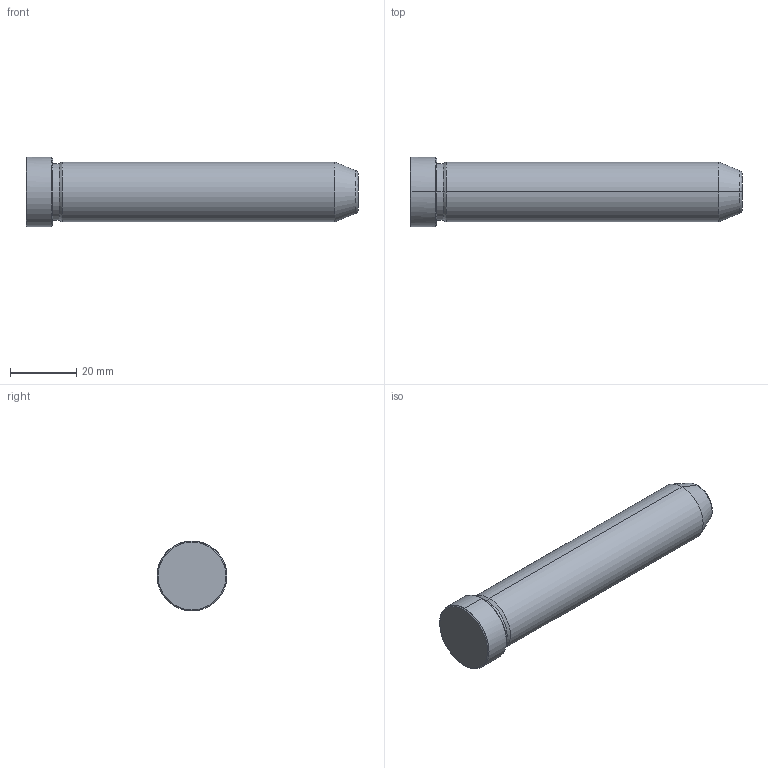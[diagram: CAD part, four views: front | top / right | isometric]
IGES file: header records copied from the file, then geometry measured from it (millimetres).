
Start section: START RECORD GO HERE.
Global section: file name: 549-18X100.igs; native system: DASSAULT SYSTEMES CATIA V5 R20 - www.3ds.com; preprocessor: CATIA Version 5 Release 20 ; author: Utente; organization: NB04-ASUS; date: 20211211.104305; units: millimetre
Bounding box: 100 x 21 x 21 mm (x, y, z)
Surface area: 6249.5 mm2 (no closed solid volume)
Topology: 0 solids, 0 shells, 19 faces, 112 edges, 112 vertices
Faces by surface type: revolution 16, plane 3
